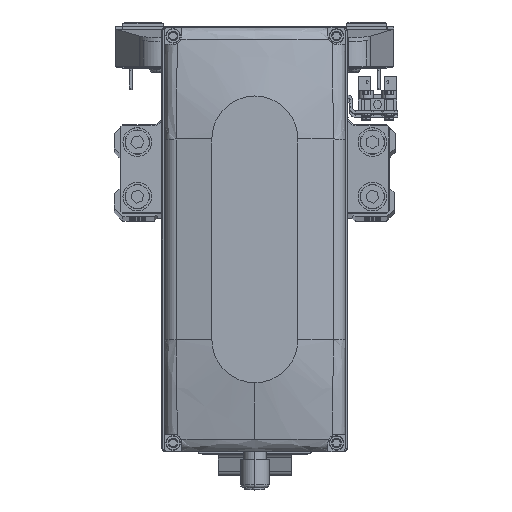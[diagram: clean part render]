
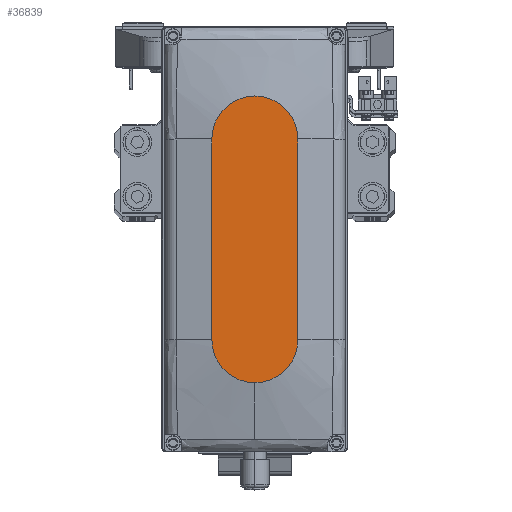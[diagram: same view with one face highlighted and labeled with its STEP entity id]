
A CAD part, top view. The second image highlights one B-rep face of the part: STEP entity #36839.
In plain terms, the highlighted planar face has unit normal (0, 0, 1).
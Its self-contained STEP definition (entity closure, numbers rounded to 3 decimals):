
#161 = VERTEX_POINT ( 'NONE', #45180 ) ;
#601 = ORIENTED_EDGE ( 'NONE', *, *, #21894, .T. ) ;
#2245 = LINE ( 'NONE', #16914, #11058 ) ;
#2436 = CARTESIAN_POINT ( 'NONE',  ( 35., 0., 35. ) ) ;
#4729 = CARTESIAN_POINT ( 'NONE',  ( -35., 0., 35. ) ) ;
#5557 = ORIENTED_EDGE ( 'NONE', *, *, #44280, .T. ) ;
#6065 = DIRECTION ( 'NONE',  ( 1., 0., 0. ) ) ;
#7129 = AXIS2_PLACEMENT_3D ( 'NONE', #2436, #17104, #31743 ) ;
#7160 = LINE ( 'NONE', #21817, #11820 ) ;
#7879 = VERTEX_POINT ( 'NONE', #46149 ) ;
#9651 = DIRECTION ( 'NONE',  ( 1., 0., 0. ) ) ;
#9702 = PLANE ( 'NONE',  #36423 ) ;
#10741 = ORIENTED_EDGE ( 'NONE', *, *, #38489, .T. ) ;
#11058 = VECTOR ( 'NONE', #31557, 1000. ) ;
#11820 = VECTOR ( 'NONE', #36462, 1000. ) ;
#15003 = VERTEX_POINT ( 'NONE', #37236 ) ;
#16914 = CARTESIAN_POINT ( 'NONE',  ( -35., -15., 35. ) ) ;
#17104 = DIRECTION ( 'NONE',  ( 0., 0., 1. ) ) ;
#19406 = DIRECTION ( 'NONE',  ( 0., 0., 1. ) ) ;
#19595 = CARTESIAN_POINT ( 'NONE',  ( -35., -15., 35. ) ) ;
#20450 = CIRCLE ( 'NONE', #47310, 15. ) ;
#21817 = CARTESIAN_POINT ( 'NONE',  ( -35., 15., 35. ) ) ;
#21894 = EDGE_CURVE ( 'NONE', #28089, #22370, #31620, .T. ) ;
#22370 = VERTEX_POINT ( 'NONE', #19595 ) ;
#23608 = EDGE_CURVE ( 'NONE', #22370, #15003, #2245, .T. ) ;
#24337 = CARTESIAN_POINT ( 'NONE',  ( 0., 0., 35. ) ) ;
#27812 = CARTESIAN_POINT ( 'NONE',  ( -35., 15., 35. ) ) ;
#27834 = CIRCLE ( 'NONE', #7129, 15. ) ;
#27888 = CARTESIAN_POINT ( 'NONE',  ( 35., 0., 35. ) ) ;
#28089 = VERTEX_POINT ( 'NONE', #27812 ) ;
#29718 = ORIENTED_EDGE ( 'NONE', *, *, #23608, .T. ) ;
#31399 = EDGE_CURVE ( 'NONE', #161, #28089, #7160, .T. ) ;
#31557 = DIRECTION ( 'NONE',  ( 1., 0., 0. ) ) ;
#31620 = CIRCLE ( 'NONE', #37741, 15. ) ;
#31743 = DIRECTION ( 'NONE',  ( 1., 0., 0. ) ) ;
#32031 = ORIENTED_EDGE ( 'NONE', *, *, #31399, .T. ) ;
#34039 = DIRECTION ( 'NONE',  ( 1., 0., 0. ) ) ;
#36423 = AXIS2_PLACEMENT_3D ( 'NONE', #24337, #38977, #6065 ) ;
#36462 = DIRECTION ( 'NONE',  ( -1., 0., 0. ) ) ;
#36839 = ADVANCED_FACE ( 'NONE', ( #42595 ), #9702, .T. ) ;
#37236 = CARTESIAN_POINT ( 'NONE',  ( 35., -15., 35. ) ) ;
#37741 = AXIS2_PLACEMENT_3D ( 'NONE', #4729, #19406, #34039 ) ;
#38489 = EDGE_CURVE ( 'NONE', #7879, #161, #20450, .T. ) ;
#38977 = DIRECTION ( 'NONE',  ( 0., 0., 1. ) ) ;
#42544 = DIRECTION ( 'NONE',  ( 0., 0., 1. ) ) ;
#42595 = FACE_OUTER_BOUND ( 'NONE', #44814, .T. ) ;
#44280 = EDGE_CURVE ( 'NONE', #15003, #7879, #27834, .T. ) ;
#44814 = EDGE_LOOP ( 'NONE', ( #32031, #601, #29718, #5557, #10741 ) ) ;
#45180 = CARTESIAN_POINT ( 'NONE',  ( 35., 15., 35. ) ) ;
#46149 = CARTESIAN_POINT ( 'NONE',  ( 50., 0., 35. ) ) ;
#47310 = AXIS2_PLACEMENT_3D ( 'NONE', #27888, #42544, #9651 ) ;
